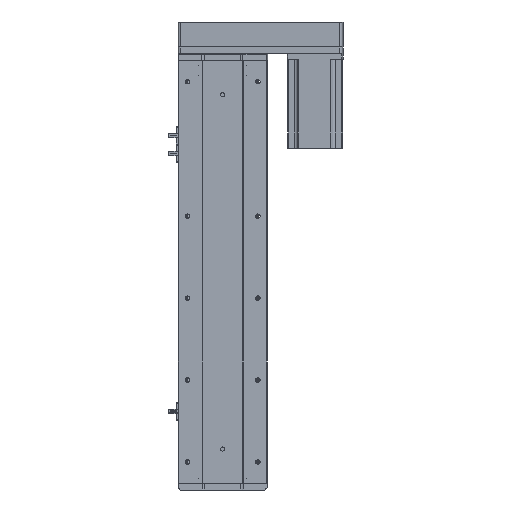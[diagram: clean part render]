
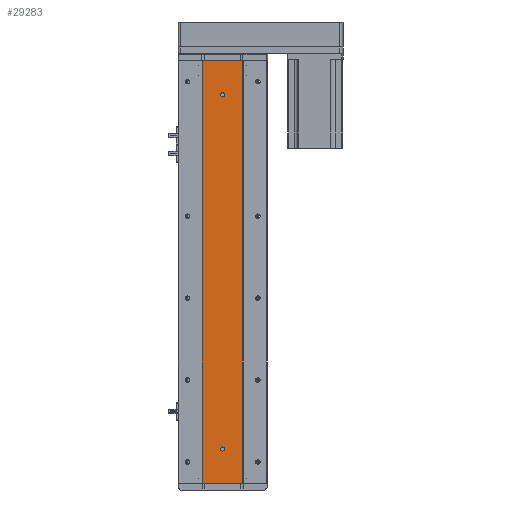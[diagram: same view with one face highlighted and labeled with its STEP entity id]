
A CAD part, left-side view. The second image highlights one B-rep face of the part: STEP entity #29283.
In plain terms, the highlighted planar face has unit normal (-1, 0, 0).
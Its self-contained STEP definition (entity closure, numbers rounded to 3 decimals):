
#419 = FACE_BOUND ( 'NONE', #26151, .T. ) ;
#1230 = EDGE_CURVE ( 'NONE', #30990, #26542, #12219, .T. ) ;
#1846 = DIRECTION ( 'NONE',  ( 0., 0., -1. ) ) ;
#2590 = CARTESIAN_POINT ( 'NONE',  ( -24.994, 0., 572. ) ) ;
#3527 = EDGE_CURVE ( 'NONE', #9826, #28894, #24584, .T. ) ;
#3657 = ORIENTED_EDGE ( 'NONE', *, *, #21834, .F. ) ;
#4610 = CARTESIAN_POINT ( 'NONE',  ( -24.994, 29.785, 619. ) ) ;
#4826 = EDGE_CURVE ( 'NONE', #14595, #35671, #7426, .T. ) ;
#5934 = CARTESIAN_POINT ( 'NONE',  ( -24.994, -29.785, 619. ) ) ;
#5994 = LINE ( 'NONE', #28070, #29876 ) ;
#6886 = ORIENTED_EDGE ( 'NONE', *, *, #10537, .F. ) ;
#7426 = CIRCLE ( 'NONE', #20827, 3. ) ;
#8176 = CARTESIAN_POINT ( 'NONE',  ( -24.994, 0., 569. ) ) ;
#8458 = PLANE ( 'NONE',  #30482 ) ;
#9155 = DIRECTION ( 'NONE',  ( 1., 0., 0. ) ) ;
#9451 = VECTOR ( 'NONE', #38059, 1000. ) ;
#9826 = VERTEX_POINT ( 'NONE', #2590 ) ;
#10537 = EDGE_CURVE ( 'NONE', #28894, #9826, #33023, .T. ) ;
#11321 = DIRECTION ( 'NONE',  ( 0., 0., 1. ) ) ;
#12219 = LINE ( 'NONE', #4610, #26879 ) ;
#12845 = CARTESIAN_POINT ( 'NONE',  ( -24.994, 0., 53. ) ) ;
#12849 = CARTESIAN_POINT ( 'NONE',  ( -24.994, 0., 50. ) ) ;
#13300 = CARTESIAN_POINT ( 'NONE',  ( -24.994, 29.785, 0. ) ) ;
#13668 = DIRECTION ( 'NONE',  ( -1., 0., 0. ) ) ;
#13821 = ORIENTED_EDGE ( 'NONE', *, *, #28264, .F. ) ;
#14292 = CARTESIAN_POINT ( 'NONE',  ( -24.994, 29.785, 0. ) ) ;
#14427 = DIRECTION ( 'NONE',  ( -1., 0., 0. ) ) ;
#14595 = VERTEX_POINT ( 'NONE', #37426 ) ;
#15956 = DIRECTION ( 'NONE',  ( 0., 0., 1. ) ) ;
#16042 = ORIENTED_EDGE ( 'NONE', *, *, #3527, .F. ) ;
#16049 = ORIENTED_EDGE ( 'NONE', *, *, #36961, .T. ) ;
#16065 = FACE_OUTER_BOUND ( 'NONE', #21957, .T. ) ;
#16325 = CARTESIAN_POINT ( 'NONE',  ( -24.994, 29.785, 619. ) ) ;
#16583 = ORIENTED_EDGE ( 'NONE', *, *, #4826, .F. ) ;
#16810 = CARTESIAN_POINT ( 'NONE',  ( -24.994, -29.785, 0. ) ) ;
#17056 = FACE_BOUND ( 'NONE', #21520, .T. ) ;
#17550 = VERTEX_POINT ( 'NONE', #16810 ) ;
#18748 = VECTOR ( 'NONE', #33984, 1000. ) ;
#19381 = AXIS2_PLACEMENT_3D ( 'NONE', #12849, #34639, #15956 ) ;
#20773 = AXIS2_PLACEMENT_3D ( 'NONE', #33097, #14427, #36228 ) ;
#20827 = AXIS2_PLACEMENT_3D ( 'NONE', #32313, #13668, #35416 ) ;
#21049 = EDGE_CURVE ( 'NONE', #35671, #14595, #23624, .T. ) ;
#21520 = EDGE_LOOP ( 'NONE', ( #16042, #6886 ) ) ;
#21834 = EDGE_CURVE ( 'NONE', #30990, #32685, #5994, .T. ) ;
#21866 = CARTESIAN_POINT ( 'NONE',  ( -24.994, -29.785, 619. ) ) ;
#21957 = EDGE_LOOP ( 'NONE', ( #16049, #13821, #3657, #24411 ) ) ;
#23624 = CIRCLE ( 'NONE', #19381, 3. ) ;
#24411 = ORIENTED_EDGE ( 'NONE', *, *, #1230, .T. ) ;
#24584 = CIRCLE ( 'NONE', #20773, 3. ) ;
#24945 = DIRECTION ( 'NONE',  ( 0., -1., 0. ) ) ;
#26151 = EDGE_LOOP ( 'NONE', ( #34523, #16583 ) ) ;
#26542 = VERTEX_POINT ( 'NONE', #14292 ) ;
#26879 = VECTOR ( 'NONE', #1846, 1000. ) ;
#27039 = LINE ( 'NONE', #5934, #18748 ) ;
#27804 = CARTESIAN_POINT ( 'NONE',  ( -24.994, 29.785, 619. ) ) ;
#27968 = CARTESIAN_POINT ( 'NONE',  ( -24.994, 0., 566. ) ) ;
#28070 = CARTESIAN_POINT ( 'NONE',  ( -24.994, 29.785, 619. ) ) ;
#28264 = EDGE_CURVE ( 'NONE', #32685, #17550, #27039, .T. ) ;
#28894 = VERTEX_POINT ( 'NONE', #27968 ) ;
#29283 = ADVANCED_FACE ( 'NONE', ( #17056, #419, #16065 ), #8458, .F. ) ;
#29876 = VECTOR ( 'NONE', #24945, 1000. ) ;
#29968 = DIRECTION ( 'NONE',  ( -1., 0., 0. ) ) ;
#30264 = AXIS2_PLACEMENT_3D ( 'NONE', #8176, #29968, #11321 ) ;
#30482 = AXIS2_PLACEMENT_3D ( 'NONE', #27804, #9155, #30919 ) ;
#30919 = DIRECTION ( 'NONE',  ( 0., 0., -1. ) ) ;
#30990 = VERTEX_POINT ( 'NONE', #16325 ) ;
#32313 = CARTESIAN_POINT ( 'NONE',  ( -24.994, 0., 50. ) ) ;
#32685 = VERTEX_POINT ( 'NONE', #21866 ) ;
#33023 = CIRCLE ( 'NONE', #30264, 3. ) ;
#33097 = CARTESIAN_POINT ( 'NONE',  ( -24.994, 0., 569. ) ) ;
#33984 = DIRECTION ( 'NONE',  ( 0., 0., -1. ) ) ;
#34251 = LINE ( 'NONE', #13300, #9451 ) ;
#34523 = ORIENTED_EDGE ( 'NONE', *, *, #21049, .F. ) ;
#34639 = DIRECTION ( 'NONE',  ( -1., 0., 0. ) ) ;
#35416 = DIRECTION ( 'NONE',  ( 0., 0., 1. ) ) ;
#35671 = VERTEX_POINT ( 'NONE', #12845 ) ;
#36228 = DIRECTION ( 'NONE',  ( 0., 0., 1. ) ) ;
#36961 = EDGE_CURVE ( 'NONE', #26542, #17550, #34251, .T. ) ;
#37426 = CARTESIAN_POINT ( 'NONE',  ( -24.994, 0., 47. ) ) ;
#38059 = DIRECTION ( 'NONE',  ( 0., -1., 0. ) ) ;
